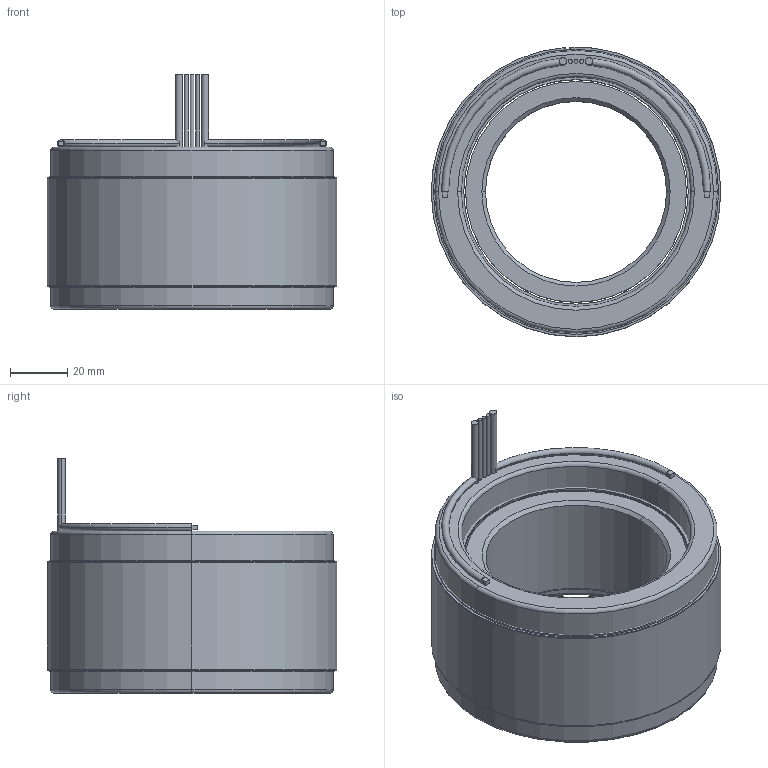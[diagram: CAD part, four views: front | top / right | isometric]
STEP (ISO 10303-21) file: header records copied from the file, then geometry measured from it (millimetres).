
FILE_DESCRIPTION (( 'STEP AP214' ), '1' );
FILE_NAME ('6100339-04.STEP', '2019-10-23T21:17:43', ( '' ), ( '' ), 'SwSTEP 2.0', 'SolidWorks 2016', '' );
FILE_SCHEMA (( 'AUTOMOTIVE_DESIGN' ));
Length unit declared in the file: millimetre
Products named in the file (11): 4400095-00; 4450182-XX_4450182-04; 4150169-XX_4150169-04; 6100339-04; 4250363-XX_4250363-04; 4500542-XX_4500542-04; 4600555-00; COMP4500542-XX(COIL)_COMP4500542-04(COIL)
Assembly tree (10 placements, depth 4):
  6100339-04
    4250363-XX_4250363-04
      4150169-XX_4150169-04
    4500542-XX_4500542-04
      4450182-XX_4450182-04
        4450182-XX_4450182-04
        4400095-00
        4400095-00
        4600555-00
        4600555-00
      COMP4500542-XX(COIL)_COMP4500542-04(COIL)
Bounding box: 101.6 x 101.57 x 82.3 mm (x, y, z)
Volume: 334448.7 mm3; surface area: 111878.6 mm2
Topology: 14 solids, 14 shells, 109 faces, 215 edges, 134 vertices
Faces by surface type: cylinder 49, plane 44, torus 12, cone 4
Entity records: 3342 total; most frequent: DIRECTION 603, CARTESIAN_POINT 474, ORIENTED_EDGE 430, AXIS2_PLACEMENT_3D 263, EDGE_CURVE 215, CIRCLE 138, VERTEX_POINT 134, EDGE_LOOP 123
